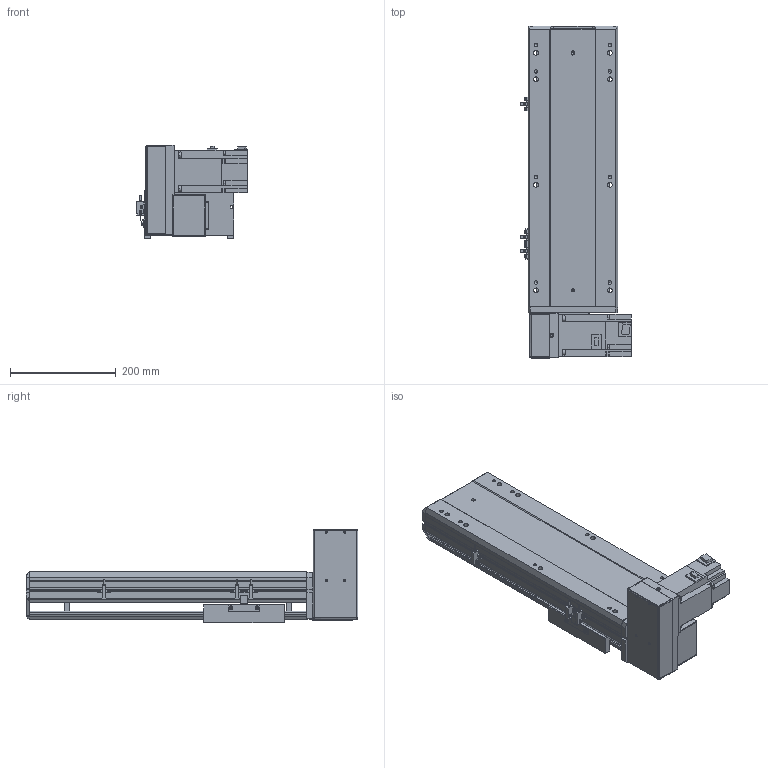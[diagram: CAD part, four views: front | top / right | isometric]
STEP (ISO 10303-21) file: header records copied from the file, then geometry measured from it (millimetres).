
FILE_DESCRIPTION (( 'STEP AP203' ), '1' );
FILE_NAME ('BTB17-L50-250-RD-T75-C4.STEP', '2022-07-26T05:42:58', ( 'CXY' ), ( 'BT' ), 'SwSTEP 2.0', 'SolidWorks 2016', '' );
FILE_SCHEMA (( 'CONFIG_CONTROL_DESIGN' ));
Length unit declared in the file: millimetre
Products named in the file (10): BTB17-L50-250-RD-T75-C4; BTB17-L-菁釱_XD; T75; BTB17-L-01; BTB17-L-24; BTB17-L-02; BTB17-L-HZ; BTB17-L-06; BTB17-L-04; BTB17-L-23
Assembly tree (12 placements, depth 2):
  BTB17-L50-250-RD-T75-C4
    BTB17-L-菁釱_XD
    BTB17-L-01
    BTB17-L-04  x3
    BTB17-L-06
    BTB17-L-23  x2
    BTB17-L-24
    BTB17-L-HZ
    BTB17-L-02
    T75
Bounding box: 209 x 629 x 176.5 mm (x, y, z)
Volume: 6130730.8 mm3; surface area: 930170.8 mm2
Topology: 22 solids, 22 shells, 1534 faces, 4045 edges, 2564 vertices
Faces by surface type: plane 862, cylinder 504, cone 132, bspline 20, torus 16
Entity records: 39077 total; most frequent: CARTESIAN_POINT 7364, DIRECTION 6471, ORIENTED_EDGE 6274, EDGE_CURVE 3137, AXIS2_PLACEMENT_3D 2195, VECTOR 2081, LINE 2081, VERTEX_POINT 2032
